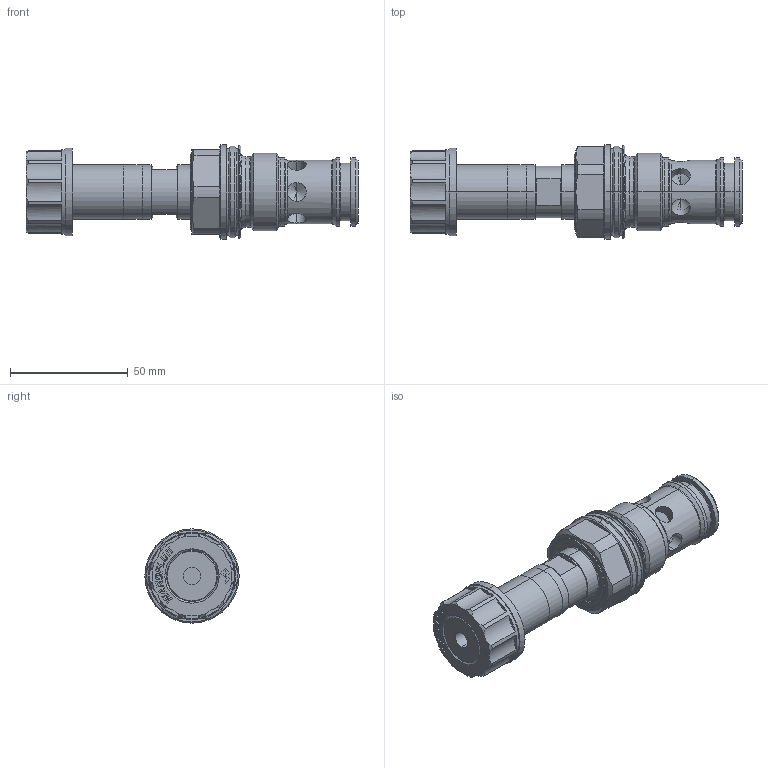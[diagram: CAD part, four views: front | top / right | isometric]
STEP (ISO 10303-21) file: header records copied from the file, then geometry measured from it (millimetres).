
FILE_DESCRIPTION (( 'STEP AP214' ), '1' );
FILE_NAME ('QNPPM33.STEP', '2014-03-19T09:10:53', ( '' ), ( '' ), 'SwSTEP 2.0', 'SolidWorks 2012', '' );
FILE_SCHEMA (( 'AUTOMOTIVE_DESIGN' ));
Length unit declared in the file: millimetre
Products named in the file (1): QNPPM33
Bounding box: 141 x 40 x 40 mm (x, y, z)
Volume: 85585.5 mm3; surface area: 30377.5 mm2
Topology: 5 solids, 5 shells, 743 faces, 1829 edges, 1127 vertices
Faces by surface type: plane 419, cylinder 160, cone 90, torus 58, bspline 16
Entity records: 31142 total; most frequent: CARTESIAN_POINT 5120, DIRECTION 3825, ORIENTED_EDGE 3634, EDGE_CURVE 1817, AXIS2_PLACEMENT_3D 1356, VERTEX_POINT 1127, LINE 1113, VECTOR 1113
